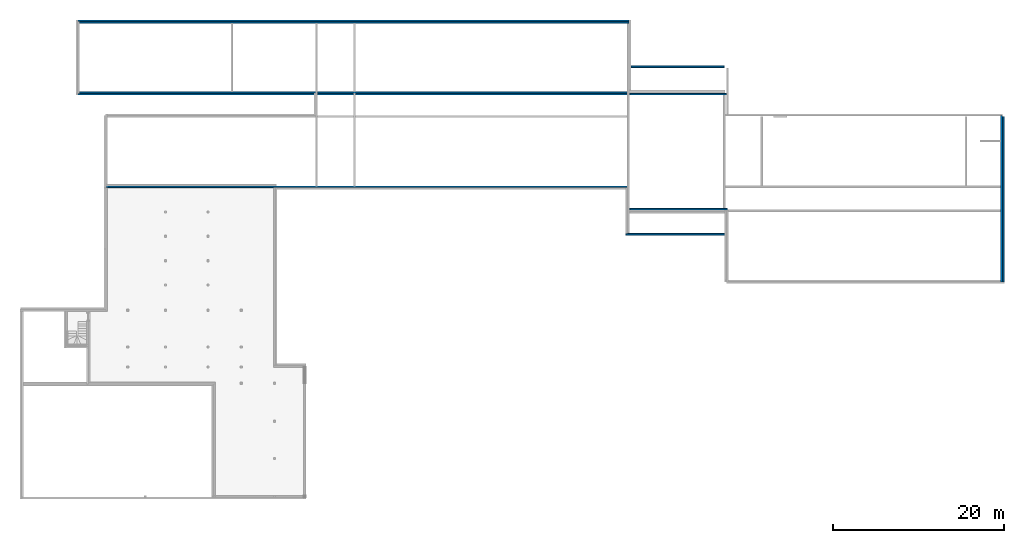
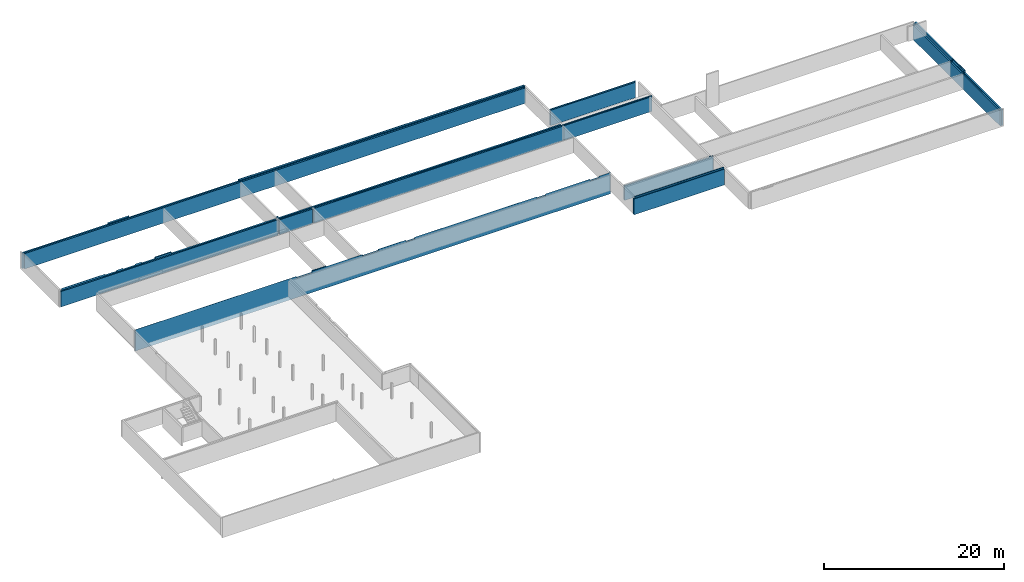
# One storey, part 5 of 6: 11 walls.
"""IFC2X3 building model written with IfcOpenShell, lengths in centimetres."""

import ifcopenshell
import ifcopenshell.guid

model = None  # the IFC model being written
_history = None  # IfcOwnerHistory: only IFC2X3 demands one
_inside = {}  # id of a spatial element -> (the spatial element, [elements in it])
_under = {}  # id of a project, library or spatial element -> (it, [spatial elements below it])
_declared = {}  # id of a project -> (the project, [libraries it declares])
_typed = {}  # id of a type object -> (the type object, [elements of that type])
_made_of = {}  # id of a material, layer set ... -> (it, [elements and type objects made of it])


def new_model(schema):
    """Start an empty IFC model of exactly this schema.

    Asked for "IFC4X3", IfcOpenShell would pick the latest addendum, in which some entities
    have other attributes; the version numbers below select the first issue.
    IFC2X3 requires an IfcOwnerHistory on every rooted entity: one is made here for all.
    """
    global model, _history
    if schema == "IFC4X3":
        model = ifcopenshell.file(schema_version=(4, 3, 0, 0))
    else:
        model = ifcopenshell.file(schema=schema)
    _inside.clear()
    _under.clear()
    _declared.clear()
    _typed.clear()
    _made_of.clear()
    _history = None
    if model.schema == "IFC2X3":
        org = make("IfcOrganization", Name="unknown")
        user = make(
            "IfcPersonAndOrganization",
            ThePerson=make("IfcPerson", FamilyName="unknown"),
            TheOrganization=org,
        )
        app = make(
            "IfcApplication",
            ApplicationDeveloper=org,
            Version="unknown",
            ApplicationFullName="unknown",
            ApplicationIdentifier="unknown",
        )
        _history = make(
            "IfcOwnerHistory",
            OwningUser=user,
            OwningApplication=app,
            ChangeAction="ADDED",
            CreationDate=0,
        )
    return model


def make(cls, **values):
    """One entity of the class cls with the attributes given. An attribute that is None is left unset."""
    return model.create_entity(
        cls, **{name: value for name, value in values.items() if value is not None}
    )


def entity(cls, *values):
    """Any entity or typed value of the class cls, its attributes in the order of the schema. None: left unset."""
    e = model.create_entity(cls)
    for i, value in enumerate(values):
        if value is not None:
            e[i] = value
    return e


def rooted(cls, **values):
    """An entity with a GlobalId (a new one), such as an element, a storey or a relation."""
    return make(cls, GlobalId=ifcopenshell.guid.new(), OwnerHistory=_history, **values)


def si_unit(unit_type, name, prefix=None):
    """IfcSIUnit, for example si_unit("LENGTHUNIT", "METRE", prefix="MILLI")."""
    return make("IfcSIUnit", UnitType=unit_type, Prefix=prefix, Name=name)


def converted_unit(unit_type, name, factor, base, dimensions=None, offset=None):
    """IfcConversionBasedUnit, such as the inch: factor (a typed value) times the base unit."""
    return make(
        "IfcConversionBasedUnit"
        if offset is None
        else "IfcConversionBasedUnitWithOffset",
        ConversionOffset=offset,
        Dimensions=None
        if dimensions is None
        else entity("IfcDimensionalExponents", *dimensions),
        UnitType=unit_type,
        Name=name,
        ConversionFactor=make(
            "IfcMeasureWithUnit", ValueComponent=factor, UnitComponent=base
        ),
    )


def derived_unit(unit_type, elements):
    """IfcDerivedUnit: a product of units, each with its exponent."""
    return make(
        "IfcDerivedUnit",
        Elements=[
            make("IfcDerivedUnitElement", Unit=unit, Exponent=power)
            for unit, power in elements
        ],
        UnitType=unit_type,
    )


def assignment(units):
    """IfcUnitAssignment: the units of a project."""
    return None if units is None else make("IfcUnitAssignment", Units=units)


def point(xyz):
    """IfcCartesianPoint."""
    return None if xyz is None else make("IfcCartesianPoint", Coordinates=xyz)


def direction(xyz):
    """IfcDirection."""
    return None if xyz is None else make("IfcDirection", DirectionRatios=xyz)


def frame(location, z_axis=None, x_axis=None):
    """IfcAxis2Placement3D, a coordinate frame: its origin and axes. An axis left out is left unset."""
    return make(
        "IfcAxis2Placement3D",
        Location=point(location),
        Axis=direction(z_axis),
        RefDirection=direction(x_axis),
    )


def origin():
    """The frame at (0, 0, 0) with its axes left unset."""
    return frame((0.0, 0.0, 0.0))


def place(relative_to, where):
    """IfcLocalPlacement: puts the frame where relative to a parent placement (None: the world)."""
    return make(
        "IfcLocalPlacement", PlacementRelTo=relative_to, RelativePlacement=where
    )


def context(
    kind, dimensions, precision=None, world=None, true_north=None, identifier=None
):
    """IfcGeometricRepresentationContext, for example the 3D "Model" context."""
    return make(
        "IfcGeometricRepresentationContext",
        ContextIdentifier=identifier,
        ContextType=kind,
        CoordinateSpaceDimension=dimensions,
        Precision=precision,
        WorldCoordinateSystem=world,
        TrueNorth=true_north,
    )


def subcontext(parent, identifier, kind, view, scale=None):
    """IfcGeometricRepresentationSubContext, for example "Body" below "Model"."""
    return make(
        "IfcGeometricRepresentationSubContext",
        ContextIdentifier=identifier,
        ContextType=kind,
        ParentContext=parent,
        TargetScale=scale,
        TargetView=view,
    )


def project(units=None, contexts=None):
    """IfcProject with its units and contexts."""
    return rooted(
        "IfcProject",
        Name="project",
        RepresentationContexts=contexts,
        UnitsInContext=assignment(units),
    )


def spatial(cls, under=None, at=None, **own):
    """A site, building, storey or space (cls), placed at a placement, below another one or the project."""
    s = rooted(cls, ObjectPlacement=at, **own)
    if under is not None:
        _under.setdefault(under.id(), (under, []))[1].append(s)
    return s


def faces_of(points, faces, orient=None, outer=None):
    """IfcFace entities. A face is a list of loops; a loop is a list of indices into points, from 0.

    orient and outer hold one flag for each loop. By default every Orientation is true, the
    first loop of a face is its IfcFaceOuterBound and the others are IfcFaceBound.
    """
    made = []
    for i, loops in enumerate(faces):
        bounds = []
        for j, loop in enumerate(loops):
            is_outer = j == 0 if outer is None else outer[i][j]
            bounds.append(
                make(
                    "IfcFaceOuterBound" if is_outer else "IfcFaceBound",
                    Bound=make("IfcPolyLoop", Polygon=[points[k] for k in loop]),
                    Orientation=True if orient is None else orient[i][j],
                )
            )
        made.append(make("IfcFace", Bounds=bounds))
    return made


def faceted_brep(points, faces, orient=None, outer=None, voids=None):
    """IfcFacetedBrep: a solid bounded by flat faces; with voids (closed shells), ...WithVoids."""
    shared = [point(p) for p in points]
    hull = make("IfcClosedShell", CfsFaces=faces_of(shared, faces, orient, outer))
    if voids is None:
        return make("IfcFacetedBrep", Outer=hull)
    return make(
        "IfcFacetedBrepWithVoids",
        Outer=hull,
        Voids=[
            make(cls, CfsFaces=faces_of(shared, fs, o, b)) for cls, fs, o, b in voids
        ],
    )


def shape(context_of_items, identifier, shape_type, items):
    """IfcShapeRepresentation: the items that make up one representation, for example the "Body"."""
    return make(
        "IfcShapeRepresentation",
        ContextOfItems=context_of_items,
        RepresentationIdentifier=identifier,
        RepresentationType=shape_type,
        Items=items,
    )


def material(Name=None, Category=None):
    """IfcMaterial."""
    return make("IfcMaterial", Name=Name, Category=Category)


def layer(
    of_material, thickness, ventilated=None, Name=None, Category=None, Priority=None
):
    """IfcMaterialLayer: one layer of a wall or slab, of a material (None: an air gap)."""
    return make(
        "IfcMaterialLayer",
        Material=of_material,
        LayerThickness=thickness,
        IsVentilated=ventilated,
        Name=Name,
        Category=Category,
        Priority=Priority,
    )


def layer_set(layers, Name=None):
    """IfcMaterialLayerSet."""
    return make("IfcMaterialLayerSet", MaterialLayers=layers, LayerSetName=Name)


def made_of(thing, what):
    """Note that an element or type object is made of a material, layer set ...; save() writes the relation."""
    if what is not None:
        _made_of.setdefault(what.id(), (what, []))[1].append(thing)
    return thing


def type_object(cls, material=None, **own):
    """A type object (cls), such as IfcWallType, which elements share."""
    return made_of(rooted(cls, **own), material)


def element(
    cls,
    number,
    at=None,
    inside=None,
    cuts=None,
    type_object=None,
    material=None,
    context=None,
    identifier="Body",
    shape_type=None,
    held_by="IfcProductDefinitionShape",
    body=None,
    shapes=None,
    **own,
):
    """One element of the class cls, such as IfcWall. Its Tag is "e" and its number.

    at: its placement. inside: the storey or other place that contains it. cuts: it is an
    opening in that element (IfcRelVoidsElement). A single representation is given by context,
    identifier, shape_type and body (its items); several are given by shapes. held_by: the class
    of the entity that holds the representations. save() writes the other relations.
    """
    e = rooted(cls, Tag="e%d" % number, ObjectPlacement=at, **own)
    if body is not None:
        shapes = [shape(context, identifier, shape_type, body)]
    if shapes is not None:
        e.Representation = make(held_by, Representations=shapes)
    if inside is not None:
        _inside.setdefault(inside.id(), (inside, []))[1].append(e)
    if cuts is not None:
        rooted(
            "IfcRelVoidsElement", RelatingBuildingElement=cuts, RelatedOpeningElement=e
        )
    if type_object is not None:
        _typed.setdefault(type_object.id(), (type_object, []))[1].append(e)
    return made_of(e, material)


def aggregate(whole, parts):
    """IfcRelAggregates: a whole, such as a stair, and the parts it consists of."""
    return rooted("IfcRelAggregates", RelatingObject=whole, RelatedObjects=parts)


def save(model, path):
    """Write the relations noted so far, then the file.

    IfcRelAggregates (storeys below a building ...), IfcRelContainedInSpatialStructure (elements
    in a storey), IfcRelDefinesByType, IfcRelAssociatesMaterial and IfcRelDeclares: one each for
    every whole, place, type object, material and project.
    """
    for whole, parts in _under.values():
        aggregate(whole, parts)
    for where, things in _inside.values():
        rooted(
            "IfcRelContainedInSpatialStructure",
            RelatedElements=things,
            RelatingStructure=where,
        )
    for kind, things in _typed.values():
        rooted("IfcRelDefinesByType", RelatedObjects=things, RelatingType=kind)
    for what, things in _made_of.values():
        rooted("IfcRelAssociatesMaterial", RelatedObjects=things, RelatingMaterial=what)
    for by, libraries in _declared.values():
        rooted("IfcRelDeclares", RelatingContext=by, RelatedDefinitions=libraries)
    model.write(path)


model = new_model("IFC2X3")

# Units and contexts
model_context = context("Model", 3, precision=0.001, world=origin(), true_north=direction((6.12303176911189e-17, 1.0)))
body_context = subcontext(model_context, "Body", "Model", "MODEL_VIEW")
ifc_project = project(units=[si_unit("LENGTHUNIT", "METRE", prefix="CENTI"), si_unit("AREAUNIT", "SQUARE_METRE"), si_unit("VOLUMEUNIT", "CUBIC_METRE"), converted_unit("PLANEANGLEUNIT", "DEGREE", entity("IfcRatioMeasure", 0.0174532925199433), si_unit("PLANEANGLEUNIT", "RADIAN"), dimensions=[0, 0, 0, 0, 0, 0, 0]), si_unit("MASSUNIT", "GRAM", prefix="KILO"), derived_unit("MASSDENSITYUNIT", [(si_unit("MASSUNIT", "GRAM", prefix="KILO"), 1), (si_unit("LENGTHUNIT", "METRE"), -3)]), si_unit("TIMEUNIT", "SECOND"), si_unit("FREQUENCYUNIT", "HERTZ"), si_unit("THERMODYNAMICTEMPERATUREUNIT", "DEGREE_CELSIUS"), derived_unit("THERMALTRANSMITTANCEUNIT", [(si_unit("MASSUNIT", "GRAM", prefix="KILO"), 1), (si_unit("THERMODYNAMICTEMPERATUREUNIT", "KELVIN"), -1), (si_unit("TIMEUNIT", "SECOND"), -3)]), derived_unit("VOLUMETRICFLOWRATEUNIT", [(si_unit("LENGTHUNIT", "METRE"), 3), (si_unit("TIMEUNIT", "SECOND"), -1)]), si_unit("ELECTRICCURRENTUNIT", "AMPERE"), si_unit("ELECTRICVOLTAGEUNIT", "VOLT"), si_unit("POWERUNIT", "WATT"), si_unit("FORCEUNIT", "NEWTON", prefix="KILO"), si_unit("ILLUMINANCEUNIT", "LUX"), si_unit("LUMINOUSFLUXUNIT", "LUMEN"), si_unit("LUMINOUSINTENSITYUNIT", "CANDELA"), derived_unit("USERDEFINED", [(si_unit("MASSUNIT", "GRAM", prefix="KILO"), -1), (si_unit("LENGTHUNIT", "METRE"), -2), (si_unit("TIMEUNIT", "SECOND"), 3), (si_unit("LUMINOUSFLUXUNIT", "LUMEN"), 1)]), derived_unit("LINEARVELOCITYUNIT", [(si_unit("LENGTHUNIT", "METRE"), 1), (si_unit("TIMEUNIT", "SECOND"), -1)]), si_unit("PRESSUREUNIT", "PASCAL"), derived_unit("USERDEFINED", [(si_unit("LENGTHUNIT", "METRE"), -2), (si_unit("MASSUNIT", "GRAM", prefix="KILO"), 1), (si_unit("TIMEUNIT", "SECOND"), -2)])], contexts=[model_context])

# Site, building, storey
site_placement = place(None, frame((-2781.94577612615, 7442.24238424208, 0.0)))
site = spatial("IfcSite", under=ifc_project, at=site_placement, Name="Default", CompositionType="ELEMENT")
building_placement = place(site_placement, origin())
building = spatial("IfcBuilding", under=site, at=building_placement, CompositionType="ELEMENT")
storey_placement = place(building_placement, frame((0.0, 0.0, -234.674140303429)))
storey = spatial("IfcBuildingStorey", under=building, at=storey_placement, Name="Vide Sanitaire", CompositionType="ELEMENT", Elevation=-234.674140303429)

# Walls
ifc_material_1 = material(Name="01 - Maçonnerie")
ifc_layer_1 = layer(ifc_material_1, 20.0)
ifc_layer_set_1 = layer_set([ifc_layer_1], Name="Mur de base:04 - Structure - béton - 20cm")
wall_type_1 = type_object("IfcWallType", Name="Mur de base:04 - Structure - béton - 20cm", PredefinedType="STANDARD", material=ifc_layer_set_1)
wall_1_placement = place(storey_placement, frame((-4787.99987760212, -1921.38903364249, -55.3258596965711), z_axis=(0.0, 0.0, 1.0), x_axis=(-1.0, 0.0, 0.0)))
element("IfcWall", 1, at=wall_1_placement, inside=storey, type_object=wall_type_1, Name="Mur de base:04 - Structure - béton - 20cm", ObjectType="Mur de base:04 - Structure - béton - 20cm", context=body_context, shape_type="Brep", body=[
    faceted_brep([(0.0, -10.0, 0.0), (6093.61317004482, -10.0, 0.0), (6093.61317004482, -10.0, 15.3258596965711), (6093.61317004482, -10.0, 255.0), (6093.61317004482, -10.0, 264.0), (3645.50000006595, -10.0, 264.0), (3645.50000006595, -10.0, 290.0), (3641.50000006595, -10.0, 290.0), (3641.50000006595, -10.0, 264.0), (3621.50000006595, -10.0, 264.0), (3198.5, -10.0, 264.0), (3178.5, -10.0, 264.0), (4.0, -10.0, 264.0), (4.0, -10.0, 290.0), (0.0, -10.0, 290.0), (6093.61317004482, 10.0, 0.0), (0.0, 10.0, 0.0), (0.0, 10.0, 290.0), (0.500000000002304, 10.0, 290.0), (18.5000000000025, 10.0, 290.0), (146.499999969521, 10.0, 290.0), (146.499999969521, 10.0, 264.0), (261.5, 10.0, 264.0), (261.5, 10.0, 290.0), (833.250000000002, 10.0, 290.0), (833.250000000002, 10.0, 264.0), (946.50000003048, 10.0, 264.0), (946.50000003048, 10.0, 290.0), (2511.50016403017, 10.0, 290.0), (2511.50016403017, 10.0, 264.0), (2626.50016406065, 10.0, 264.0), (2626.50016406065, 10.0, 290.0), (2978.5, 10.0, 290.0), (2978.5, 10.0, 264.0), (3178.5, 10.0, 264.0), (3178.5, 10.0, 290.0), (3825.98750329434, 10.0, 290.0), (3825.98750329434, 10.0, 264.0), (4025.98750329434, 10.0, 264.0), (4025.98750329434, 10.0, 290.0), (4095.932302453, 10.0, 290.0), (4113.93230245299, 10.0, 290.0), (4133.932302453, 10.0, 290.0), (6093.61317004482, 10.0, 290.0), (6093.61317004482, 10.0, 284.0), (6093.61317004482, 10.0, 264.0), (6093.61317004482, 10.0, 255.0), (6093.61317004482, 10.0, 55.325859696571), (6093.61317004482, 10.0, 15.3258596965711), (6093.61317004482, 8.68999999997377, 290.0), (6093.61317004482, 8.68999999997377, 264.0), (3645.50000006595, -5.31000000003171, 290.0), (3825.98750329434, -5.31000000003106, 290.0), (3178.5, 8.69000000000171, 290.0), (3641.50000006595, 8.69000000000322, 290.0), (3825.98750329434, -5.31000000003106, 264.0), (3645.50000006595, -5.31000000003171, 264.0), (4025.98750329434, 8.68999999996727, 264.0), (4025.98750329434, 8.68999999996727, 290.0), (4.0, 9.58999999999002, 264.0), (4.0, 9.58999999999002, 290.0), (3641.50000006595, 8.69000000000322, 264.0), (3178.5, 8.69000000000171, 264.0), (146.499999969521, 9.58999999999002, 264.0), (146.499999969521, 9.58999999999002, 290.0), (261.5, 9.58999999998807, 264.0), (261.5, 9.58999999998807, 290.0), (833.250000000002, 9.58999999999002, 264.0), (833.250000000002, 9.58999999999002, 290.0), (946.50000003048, 9.58999999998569, 264.0), (946.50000003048, 9.58999999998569, 290.0), (2511.50016403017, 9.58999999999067, 264.0), (2511.50016403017, 9.58999999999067, 290.0), (2626.50016406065, 8.27999999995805, 264.0), (2626.50016406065, 8.27999999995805, 290.0), (2978.5, 8.27999999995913, 264.0), (2978.5, 8.27999999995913, 290.0)], [[[0, 1, 2, 3, 4, 5, 6, 7, 8, 9, 10, 11, 12, 13, 14]], [[15, 16, 17, 18, 19, 20, 21, 22, 23, 24, 25, 26, 27, 28, 29, 30, 31, 32, 33, 34, 35, 36, 37, 38, 39, 40, 41, 42, 43, 44, 45, 46, 47, 48]], [[1, 15, 48, 47, 46, 45, 44, 43, 49, 50, 4, 3, 2]], [[1, 0, 16, 15]], [[7, 6, 51, 52, 36, 35, 53, 54]], [[55, 56, 5, 4, 50, 57, 38, 37]], [[57, 50, 49, 58]], [[59, 60, 13, 12]], [[54, 61, 8, 7]], [[56, 51, 6, 5]], [[62, 61, 54, 53]], [[14, 17, 16, 0]], [[59, 63, 64, 60]], [[64, 63, 21, 20]], [[65, 66, 23, 22]], [[65, 67, 68, 66]], [[68, 67, 25, 24]], [[69, 70, 27, 26]], [[69, 71, 72, 70]], [[72, 71, 29, 28]], [[73, 74, 31, 30]], [[73, 75, 76, 74]], [[76, 75, 33, 32]], [[62, 53, 35, 34]], [[56, 55, 52, 51]], [[52, 55, 37, 36]], [[57, 58, 39, 38]], [[63, 59, 12, 11, 10, 9, 8, 61, 62, 34, 33, 75, 73, 30, 29, 71, 69, 26, 25, 67, 65, 22, 21]], [[43, 42, 41, 40, 39, 58, 49]], [[32, 31, 74, 76]], [[28, 27, 70, 72]], [[24, 23, 66, 68]], [[17, 14, 13, 60, 64, 20, 19, 18]]]),
])
wall_2_placement = place(storey_placement, frame((-11190.6616968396, 0.0, 0.0)))
element("IfcWall", 2, at=wall_2_placement, inside=storey, type_object=wall_type_1, Name="Mur de base:04 - Structure - béton - 20cm", ObjectType="Mur de base:04 - Structure - béton - 20cm", context=body_context, shape_type="Brep", body=[
    faceted_brep([(0.0, -10.0, 0.0), (1771.16181917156, -10.0, 0.0), (1791.16181917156, -10.0, 0.0), (2761.16181917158, -10.0, 0.0), (2781.16181917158, -10.0, 0.0), (3204.16181923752, -10.0, 0.0), (3224.16181923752, -10.0, 0.0), (6422.66181923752, -10.0, 0.0), (6422.66181923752, -10.0, 202.30015461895), (6402.66181923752, -10.0, 202.30015461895), (6402.66181923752, -10.0, 208.674140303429), (3224.16181923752, -10.0, 208.674140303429), (3204.16181923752, -10.0, 208.674140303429), (2781.16181917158, -10.0, 208.674140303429), (2761.16181917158, -10.0, 208.674140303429), (2761.16181917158, -10.0, 223.849500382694), (2757.16181917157, -10.0, 223.849500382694), (2757.16181917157, -10.0, 208.674140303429), (0.0, -10.0, 208.674140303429), (6422.66181923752, 10.0, 0.0), (0.0, 10.0, 0.0), (0.0, 10.0, 208.674140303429), (2757.16181917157, 10.0, 208.674140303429), (2757.16181917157, 10.0, 223.849500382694), (2761.16181917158, 10.0, 223.849500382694), (2761.16181917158, 10.0, 208.674140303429), (6402.66181923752, 10.0, 208.674140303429), (6402.66181923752, 10.0, 202.30015461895), (6422.66181923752, 10.0, 202.30015461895)], [[[0, 1, 2, 3, 4, 5, 6, 7, 8, 9, 10, 11, 12, 13, 14, 15, 16, 17, 18]], [[19, 20, 21, 22, 23, 24, 25, 26, 27, 28]], [[20, 0, 18, 21]], [[7, 6, 5, 4, 3, 2, 1, 0, 20, 19]], [[16, 15, 24, 23]], [[25, 14, 13, 12, 11, 10, 26]], [[22, 17, 16, 23]], [[14, 25, 24, 15]], [[9, 8, 28, 27]], [[7, 19, 28, 8]], [[9, 27, 26, 10]], [[17, 22, 21, 18]]]),
])
wall_3_placement = place(storey_placement, frame((-3649.49987968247, -2475.15656731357, 0.0), z_axis=(0.0, 0.0, 1.0), x_axis=(-1.0, 0.0, 0.0)))
element("IfcWall", 3, at=wall_3_placement, inside=storey, type_object=wall_type_1, Name="Mur de base:04 - Structure - béton - 20cm", ObjectType="Mur de base:04 - Structure - béton - 20cm", context=body_context, shape_type="Brep", body=[
    faceted_brep([(0.0, -10.0, 0.0), (1139.0, -10.0, 0.0), (1157.0, -10.0, 0.0), (1157.0, -10.0, 214.674140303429), (1138.49999791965, -10.0, 214.674140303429), (1138.49999791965, -10.0, 234.674140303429), (0.0, -10.0, 234.674140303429), (1157.0, 10.0, 0.0), (0.0, 10.0, 0.0), (0.0, 10.0, 214.674140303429), (1157.0, 10.0, 214.674140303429), (1138.49999791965, 0.488092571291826, 234.674140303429), (0.0, 0.488092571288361, 234.674140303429), (0.0, 0.488092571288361, 214.674140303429), (1138.49999791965, 0.488092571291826, 214.674140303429)], [[[0, 1, 2, 3, 4, 5, 6]], [[7, 8, 9, 10]], [[2, 7, 10, 3]], [[2, 1, 0, 8, 7]], [[6, 5, 11, 12]], [[13, 14, 4, 3, 10, 9]], [[14, 11, 5, 4]], [[14, 13, 12, 11]], [[8, 0, 6, 12, 13, 9]]]),
])
wall_4_placement = place(storey_placement, frame((-399.999882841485, -3030.3134995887, 0.0), z_axis=(0.0, 0.0, 1.0), x_axis=(0.0, 1.0, 0.0)))
element("IfcWall", 4, at=wall_4_placement, inside=storey, type_object=wall_type_1, Name="Mur de base:04 - Structure - béton - 20cm", ObjectType="Mur de base:04 - Structure - béton - 20cm", context=body_context, shape_type="Brep", body=[
    faceted_brep([(0.0, -10.0, 0.0), (1930.3134996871, -10.0, 0.0), (1930.3134996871, -10.0, 208.674140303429), (1930.3134996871, -10.0, 234.674140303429), (1100.15693227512, -10.0, 234.674140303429), (840.156932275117, -10.0, 234.674140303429), (840.156932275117, -10.0, 208.674140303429), (0.0, -10.0, 208.674140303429), (1930.31349968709, 10.0, 0.0), (1120.23446594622, 10.0, 0.0), (1100.23446594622, 10.0, 0.0), (840.156932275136, 10.0, 0.0), (820.156932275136, 10.0, 0.0), (20.0, 10.0, 0.0), (0.0, 10.0, 0.0), (0.0, 10.0, 208.674140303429), (14.0, 10.0, 208.674140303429), (20.0, 10.0, 208.674140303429), (820.156932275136, 10.0, 208.674140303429), (840.156932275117, 10.0, 208.674140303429), (840.156932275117, 10.0, 234.674140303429), (841.466932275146, 10.0, 234.674140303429), (841.466932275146, 10.0, 208.674140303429), (1100.23446594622, 10.0, 208.674140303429), (1101.46693227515, 10.0, 208.674140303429), (1101.46693227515, 10.0, 234.674140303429), (1930.31349968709, 10.0, 234.674140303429), (1930.3134996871, 10.0, 208.674140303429), (1101.46693227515, -5.0, 234.674140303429), (841.466932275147, -5.0, 234.674140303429), (1101.46693227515, -5.0, 208.674140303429), (841.466932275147, -5.0, 208.674140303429)], [[[0, 1, 2, 3, 4, 5, 6, 7]], [[8, 9, 10, 11, 12, 13, 14, 15, 16, 17, 18, 19, 20, 21, 22, 23, 24, 25, 26, 27]], [[1, 0, 14, 13, 12, 11, 10, 9, 8]], [[3, 2, 1, 8, 27, 26]], [[3, 26, 25, 28, 29, 21, 20, 5, 4]], [[14, 0, 7, 15]], [[6, 19, 18, 17, 16, 15, 7]], [[19, 6, 5, 20]], [[30, 24, 23, 22, 31]], [[24, 30, 28, 25]], [[30, 31, 29, 28]], [[31, 22, 21, 29]]]),
])
wall_5_placement = place(storey_placement, frame((-11190.6616968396, -820.048500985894, 0.0)))
element("IfcWall", 5, at=wall_5_placement, inside=storey, type_object=wall_type_1, Name="Mur de base:04 - Structure - béton - 20cm", ObjectType="Mur de base:04 - Structure - béton - 20cm", context=body_context, shape_type="Brep", body=[
    faceted_brep([(0.0, -10.0, 234.674140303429), (0.0, -10.0, 0.0), (2743.16181917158, -10.0, 0.0), (2761.16181917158, -10.0, 0.0), (2761.16181917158, -10.0, 208.674140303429), (2781.16181917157, -10.0, 208.674140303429), (2781.16181917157, -10.0, 234.674140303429), (2761.16181917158, -10.0, 234.674140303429), (2757.16181917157, -10.0, 234.674140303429), (2757.16181917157, -10.0, 208.674140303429), (1408.16181917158, -10.0, 208.674140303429), (1408.16181917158, -10.0, 234.674140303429), (1202.0, -10.0, 234.674140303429), (1202.0, -10.0, 208.674140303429), (1022.0, -10.0, 208.674140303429), (1022.0, -10.0, 234.674140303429), (940.080909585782, -10.0, 234.674140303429), (940.080909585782, -10.0, 208.674140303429), (789.080909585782, -10.0, 208.674140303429), (789.080909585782, -10.0, 234.674140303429), (707.161819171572, -10.0, 234.674140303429), (707.161819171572, -10.0, 208.674140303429), (556.161819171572, -10.0, 208.674140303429), (556.161819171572, -10.0, 234.674140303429), (6402.66181923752, 10.0, 0.0), (3224.16181923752, 10.0, 0.0), (3204.16181923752, 10.0, 0.0), (2781.16181917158, 10.0, 0.0), (2781.16181917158, 10.0, 208.674140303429), (3204.16181923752, 10.0, 208.674140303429), (3224.16181923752, 10.0, 208.674140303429), (6402.66181923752, 10.0, 208.674140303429), (0.0, 10.0, 0.0), (1771.16181917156, 10.0, 0.0), (1791.16181917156, 10.0, 0.0), (2761.16181917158, 10.0, 0.0), (2781.16181917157, 4.0, 234.674140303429), (2761.16181917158, 4.0, 234.674140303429), (2761.16181917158, 10.0, 234.674140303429), (2757.16181917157, 10.0, 234.674140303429), (0.0, -8.6899999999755, 234.674140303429), (0.0, -8.6899999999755, 208.674140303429), (0.0, 10.0, 208.674140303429), (6402.66181923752, -10.0, 0.0), (6402.66181923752, -10.0, 208.674140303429), (2781.16181917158, 4.0, 208.674140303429), (2781.16181917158, -10.0, 0.0), (2761.16181917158, 4.0, 208.674140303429), (3204.16181923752, -10.0, 208.674140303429), (3224.16181923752, -10.0, 208.674140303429), (2757.16181917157, 10.0, 208.674140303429), (1202.0, 4.0, 234.674140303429), (1202.0, 4.0, 208.674140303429), (1022.0, -8.68999999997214, 208.674140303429), (1022.0, -8.68999999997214, 234.674140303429), (940.080909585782, -8.68999999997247, 208.674140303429), (940.080909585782, -8.68999999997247, 234.674140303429), (1408.16181917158, 4.0, 208.674140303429), (1408.16181917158, 4.0, 234.674140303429), (707.161819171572, -8.68999999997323, 234.674140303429), (707.161819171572, -8.68999999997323, 208.674140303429), (556.161819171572, -8.68999999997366, 208.674140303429), (556.161819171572, -8.68999999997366, 234.674140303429), (789.080909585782, -8.6899999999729, 208.674140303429), (789.080909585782, -8.6899999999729, 234.674140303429), (3224.16181923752, -10.0, 0.0), (3204.16181923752, -10.0, 0.0)], [[[0, 1, 2, 3, 4, 5, 6, 7, 8, 9, 10, 11, 12, 13, 14, 15, 16, 17, 18, 19, 20, 21, 22, 23]], [[24, 25, 26, 27, 28, 29, 30, 31]], [[1, 32, 33, 34, 35, 3, 2]], [[8, 7, 6, 36, 37, 38, 39]], [[1, 0, 40, 41, 42, 32]], [[43, 24, 31, 44]], [[5, 45, 28, 27, 46]], [[47, 4, 3, 35, 38, 37]], [[45, 5, 4, 47]], [[45, 5, 48, 49, 44, 31, 30, 29, 28]], [[50, 9, 8, 39]], [[45, 36, 6, 5]], [[36, 45, 47, 37]], [[51, 52, 13, 12]], [[53, 54, 15, 14]], [[53, 55, 56, 54]], [[57, 58, 11, 10]], [[57, 52, 51, 58]], [[59, 60, 21, 20]], [[61, 62, 23, 22]], [[62, 61, 41, 40]], [[56, 55, 17, 16]], [[63, 64, 19, 18]], [[63, 60, 59, 64]], [[52, 57, 10, 9, 50, 42, 41, 61, 22, 21, 60, 63, 18, 17, 55, 53, 14, 13]], [[12, 11, 58, 51]], [[16, 15, 54, 56]], [[20, 19, 64, 59]], [[0, 23, 62, 40]], [[24, 43, 65, 66, 46, 27, 26, 25]], [[38, 35, 34, 33, 32, 42, 50, 39]], [[46, 66, 65, 43, 44, 49, 48, 5]]]),
])
wall_6_placement = place(storey_placement, frame((-4749.99987760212, -517.548500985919, 0.0)))
element("IfcWall", 6, at=wall_6_placement, inside=storey, type_object=wall_type_1, Name="Mur de base:04 - Structure - béton - 20cm", ObjectType="Mur de base:04 - Structure - béton - 20cm", context=body_context, shape_type="Brep", body=[
    faceted_brep([(0.0, -10.0, 0.0), (1092.0, -10.0, 0.0), (1092.0, -10.0, 228.674140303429), (1082.0, -10.0, 228.674140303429), (1082.0, -10.0, 208.674140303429), (0.0, -10.0, 208.674140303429), (1092.0, 10.0, 0.0), (0.0, 10.0, 0.0), (0.0, 10.0, 214.674140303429), (1092.0, 10.0, 214.674140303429), (1092.0, -4.85000000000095, 214.674140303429), (1092.0, -4.85000000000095, 228.674140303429), (1082.0, -4.85000000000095, 228.674140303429), (0.0, 9.0, 208.674140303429), (0.0, 9.0, 214.674140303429), (1082.0, 9.0, 214.674140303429), (1082.0, -4.85000000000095, 214.674140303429), (1082.0, 9.0, 208.674140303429)], [[[0, 1, 2, 3, 4, 5]], [[6, 7, 8, 9]], [[1, 0, 7, 6]], [[2, 1, 6, 9, 10, 11]], [[2, 11, 12, 3]], [[7, 0, 5, 13, 14, 8]], [[9, 8, 14, 15, 16, 10]], [[11, 10, 16, 12]], [[4, 17, 13, 5]], [[13, 17, 15, 14]], [[17, 4, 3, 12, 16, 15]]]),
])
ifc_material_2 = material(Name="00 - Isolant")
ifc_layer_2 = layer(ifc_material_2, 18.0)
ifc_layer_set_2 = layer_set([ifc_layer_2], Name="Mur de base:04 - Parement - ITE 18 - isolation enterrée")
wall_type_2 = type_object("IfcWallType", Name="Mur de base:04 - Parement - ITE 18 - isolation enterrée", PredefinedType="STANDARD", material=ifc_layer_set_2)
wall_7_placement = place(storey_placement, frame((-418.999882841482, -1090.0, 0.0), z_axis=(0.0, 0.0, 1.0), x_axis=(0.0, -1.0, 0.0)))
element("IfcWall", 7, at=wall_7_placement, inside=storey, type_object=wall_type_2, Name="Mur de base:04 - Parement - ITE 18 - isolation enterrée", ObjectType="Mur de base:04 - Parement - ITE 18 - isolation enterrée", context=body_context, shape_type="Brep", body=[
    faceted_brep([(0.0, -9.0, 0.0), (1920.31349968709, -9.0, 0.0), (1940.31349968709, -9.0, 0.0), (1940.3134996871, -9.0, 190.0), (1940.3134996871, -9.0, 208.674140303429), (1926.31349968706, -9.0, 208.674140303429), (1920.3134996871, -9.0, 208.674140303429), (1920.3134996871, -9.0, 199.674140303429), (1120.15656741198, -9.0, 199.674140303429), (1120.15656741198, -9.0, 208.674140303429), (1100.15656741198, -9.0, 208.674140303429), (1100.15656741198, -9.0, 199.674140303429), (840.079033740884, -9.0, 199.674140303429), (840.079033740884, -9.0, 208.674140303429), (820.079033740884, -9.0, 208.674140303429), (820.079033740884, -9.0, 199.674140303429), (20.0, -9.0, 199.674140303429), (20.0, -9.0, 208.674140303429), (0.0, -9.0, 208.674140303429), (1940.31349968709, 9.0, 0.0), (0.0, 9.0, 0.0), (0.0, 9.0, 208.674140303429), (20.0, 9.0, 208.674140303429), (20.0, 9.0, 199.674140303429), (820.079033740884, 9.0, 199.674140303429), (820.079033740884, 9.0, 208.674140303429), (838.846567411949, 9.0, 208.674140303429), (840.079033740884, 9.0, 208.674140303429), (840.079033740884, 9.0, 199.674140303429), (1100.15656741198, 9.0, 199.674140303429), (1100.15656741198, 9.0, 208.674140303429), (1120.15656741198, 9.0, 208.674140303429), (1120.15656741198, 9.0, 199.674140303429), (1920.3134996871, 9.0, 199.674140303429), (1920.3134996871, 9.0, 208.674140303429), (1926.31349968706, 9.0, 208.674140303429), (1940.3134996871, 9.0, 208.674140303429)], [[[0, 1, 2, 3, 4, 5, 6, 7, 8, 9, 10, 11, 12, 13, 14, 15, 16, 17, 18]], [[19, 20, 21, 22, 23, 24, 25, 26, 27, 28, 29, 30, 31, 32, 33, 34, 35, 36]], [[2, 1, 0, 20, 19]], [[0, 18, 21, 20]], [[5, 4, 36, 35]], [[21, 18, 17, 22]], [[23, 16, 15, 24]], [[33, 7, 6, 34]], [[24, 15, 14, 25]], [[8, 32, 31, 9]], [[29, 11, 10, 30]], [[12, 28, 27, 13]], [[2, 19, 36, 4, 3]], [[16, 23, 22, 17]], [[28, 12, 11, 29]], [[32, 8, 7, 33]], [[14, 13, 27, 26, 25]], [[10, 9, 31, 30]], [[5, 35, 34, 6]]]),
])
wall_8_placement = place(storey_placement, frame((-11210.6616968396, 19.0, 0.0)))
element("IfcWall", 8, at=wall_8_placement, inside=storey, type_object=wall_type_2, Name="Mur de base:04 - Parement - ITE 18 - isolation enterrée", ObjectType="Mur de base:04 - Parement - ITE 18 - isolation enterrée", context=body_context, shape_type="Brep", body=[
    faceted_brep([(0.0, -9.0, 0.0), (20.0, -9.0, 0.0), (6442.66181923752, -9.0, 0.0), (6442.66181923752, -9.0, 202.30015461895), (6442.66181923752, -9.0, 228.674140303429), (6441.38738404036, -9.0, 228.674140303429), (6441.38738404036, -9.0, 208.674140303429), (6422.66181923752, -9.0, 208.674140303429), (2781.16181917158, -9.0, 208.674140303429), (2781.16181917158, -9.0, 223.849500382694), (2781.16181917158, -9.0, 228.674140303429), (2777.16181917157, -9.0, 228.674140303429), (2777.16181917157, -9.0, 223.849500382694), (2777.16181917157, -9.0, 208.674140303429), (20.0, -9.0, 208.674140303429), (0.0, -9.0, 208.674140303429), (6442.66181923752, 9.0, 0.0), (0.0, 9.0, 0.0), (0.0, 9.0, 208.674140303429), (1106.91181917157, 9.0, 208.674140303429), (1106.91181917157, 9.0, 228.674140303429), (1380.41181917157, 9.0, 228.674140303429), (1380.41181917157, 9.0, 208.674140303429), (2777.16181917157, 9.0, 208.674140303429), (2777.16181917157, 9.0, 228.674140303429), (6442.66181923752, 9.0, 228.674140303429), (6442.66181923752, 9.0, 214.674140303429), (2781.16181917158, 5.0, 228.674140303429), (6441.38738404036, 5.0, 228.674140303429), (1380.41181917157, 7.2, 208.674140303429), (1106.91181917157, 7.2, 208.674140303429), (6441.38738404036, 5.0, 208.674140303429), (2781.16181917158, 5.0, 208.674140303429), (1106.91181917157, 7.2, 228.674140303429), (1380.41181917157, 7.2, 228.674140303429)], [[[0, 1, 2, 3, 4, 5, 6, 7, 8, 9, 10, 11, 12, 13, 14, 15]], [[16, 17, 18, 19, 20, 21, 22, 23, 24, 25, 26]], [[17, 0, 15, 18]], [[4, 3, 2, 16, 26, 25]], [[2, 1, 0, 17, 16]], [[4, 25, 24, 11, 10, 27, 28, 5]], [[29, 30, 19, 18, 15, 14, 13, 23, 22]], [[31, 6, 5, 28]], [[32, 31, 28, 27]], [[23, 13, 12, 11, 24]], [[8, 32, 27, 10, 9]], [[19, 30, 33, 20]], [[29, 22, 21, 34]], [[30, 29, 34, 33]], [[31, 32, 8, 7, 6]], [[21, 20, 33, 34]]]),
])
wall_9_placement = place(storey_placement, frame((-4758.99987760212, -839.048500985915, 0.0)))
element("IfcWall", 9, at=wall_9_placement, inside=storey, type_object=wall_type_2, Name="Mur de base:04 - Parement - ITE 18 - isolation enterrée", ObjectType="Mur de base:04 - Parement - ITE 18 - isolation enterrée", context=body_context, shape_type="Brep", body=[
    faceted_brep([(0.0, -9.0, 0.0), (1129.49999791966, -9.0, 0.0), (1129.49999791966, -9.0, 208.674140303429), (1091.0, -9.0, 208.674140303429), (1091.0, -9.0, 199.674140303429), (0.0, -9.0, 199.674140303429), (1129.49999791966, 9.0, 0.0), (0.0, 9.0, 0.0), (0.0, 9.0, 208.674140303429), (1091.0, 9.0, 208.674140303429), (1129.49999791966, 9.0, 208.674140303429), (0.0, 7.0, 199.674140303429), (0.0, 7.0, 208.674140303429), (1091.0, 7.0, 208.674140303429), (1091.0, 7.0, 199.674140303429)], [[[0, 1, 2, 3, 4, 5]], [[6, 7, 8, 9, 10]], [[1, 0, 7, 6]], [[8, 7, 0, 5, 11, 12]], [[3, 2, 10, 9, 13]], [[9, 8, 12, 13]], [[2, 1, 6, 10]], [[4, 14, 11, 5]], [[13, 14, 4, 3]], [[14, 13, 12, 11]]]),
])
wall_10_placement = place(storey_placement, frame((-4758.99987760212, -2181.15656731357, 0.0)))
element("IfcWall", 10, at=wall_10_placement, inside=storey, type_object=wall_type_2, Name="Mur de base:04 - Parement - ITE 18 - isolation enterrée", ObjectType="Mur de base:04 - Parement - ITE 18 - isolation enterrée", context=body_context, shape_type="Brep", body=[
    faceted_brep([(0.0, -9.0, 0.0), (1138.49999791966, -9.0, 0.0), (1138.49999791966, -9.0, 199.674140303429), (1111.0, -9.0, 199.674140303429), (1111.0, -9.0, 208.674140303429), (1091.0, -9.0, 208.674140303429), (1091.0, -9.0, 199.674140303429), (0.0, -9.0, 199.674140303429), (1138.49999791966, 9.0, 0.0), (0.0, 9.0, 0.0), (0.0, 9.0, 199.674140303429), (1091.0, 9.0, 199.674140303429), (1091.0, 9.0, 208.674140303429), (1111.0, 9.0, 208.674140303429), (1111.0, 9.0, 199.674140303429), (1138.49999791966, 9.0, 199.674140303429)], [[[0, 1, 2, 3, 4, 5, 6, 7]], [[8, 9, 10, 11, 12, 13, 14, 15]], [[1, 0, 9, 8]], [[1, 8, 15, 2]], [[9, 0, 7, 10]], [[5, 4, 13, 12]], [[14, 3, 2, 15]], [[11, 6, 5, 12]], [[3, 14, 13, 4]], [[6, 11, 10, 7]]]),
])
wall_11_placement = place(storey_placement, frame((-11210.6616968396, -839.048500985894, 0.0)))
element("IfcWall", 11, at=wall_11_placement, inside=storey, type_object=wall_type_2, Name="Mur de base:04 - Parement - ITE 18 - isolation enterrée", ObjectType="Mur de base:04 - Parement - ITE 18 - isolation enterrée", context=body_context, shape_type="Brep", body=[
    faceted_brep([(0.0, -9.0, 208.674140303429), (0.0, -9.0, 0.0), (2781.16181917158, -9.0, 0.0), (2781.16181917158, -9.0, 208.674140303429), (0.0, 9.0, 0.0), (2781.16181917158, 9.0, 0.0), (0.0, 9.0, 208.674140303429), (2781.16181917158, 9.0, 208.674140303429)], [[[0, 1, 2, 3]], [[1, 4, 5, 2]], [[1, 0, 6, 4]], [[3, 2, 5, 7]], [[6, 0, 3, 7]], [[4, 6, 7, 5]]]),
    faceted_brep([(6451.66181923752, 9.0, 208.674140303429), (6451.66181923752, 9.0, 0.0), (3244.16181923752, 9.0, 0.0), (3244.16181923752, 9.0, 199.674140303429), (6422.66181923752, 9.0, 199.674140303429), (6422.66181923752, 9.0, 208.674140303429), (6451.66181923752, 7.0, 208.674140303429), (6451.66181923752, 7.0, 199.674140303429), (6451.66181923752, -9.0, 199.674140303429), (6451.66181923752, -9.0, 0.0), (6422.66181923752, -9.0, 208.674140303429), (6442.66181923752, -9.0, 208.674140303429), (6442.66181923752, 7.0, 208.674140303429), (3244.16181923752, -9.0, 0.0), (3244.16181923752, -9.0, 199.674140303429), (6442.66181923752, 7.0, 199.674140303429), (6442.66181923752, -9.0, 199.674140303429), (6422.66181923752, -9.0, 199.674140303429)], [[[0, 1, 2, 3, 4, 5]], [[1, 0, 6, 7, 8, 9]], [[10, 11, 12, 6, 0, 5]], [[2, 13, 14, 3]], [[7, 15, 16, 8]], [[15, 12, 11, 16]], [[4, 17, 10, 5]], [[12, 15, 7, 6]], [[17, 4, 3, 14]], [[1, 9, 13, 2]], [[13, 9, 8, 16, 11, 10, 17, 14]]]),
    faceted_brep([(2801.16181917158, 9.0, 0.0), (2801.16181917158, -9.0, 0.0), (2801.16181917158, -9.0, 199.674140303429), (2801.16181917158, 9.0, 199.674140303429), (3224.16181923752, -9.0, 0.0), (3224.16181923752, 9.0, 0.0), (3224.16181923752, 9.0, 199.674140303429), (3224.16181923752, -9.0, 199.674140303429)], [[[0, 1, 2, 3]], [[4, 5, 6, 7]], [[2, 7, 6, 3]], [[1, 0, 5, 4]], [[5, 0, 3, 6]], [[1, 4, 7, 2]]]),
])

save(model, "model.ifc")
